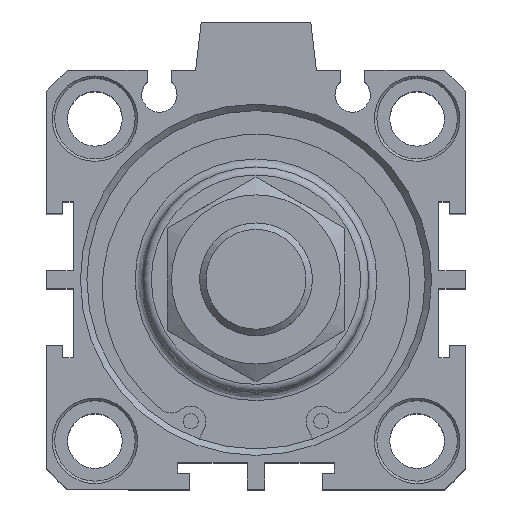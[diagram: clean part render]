
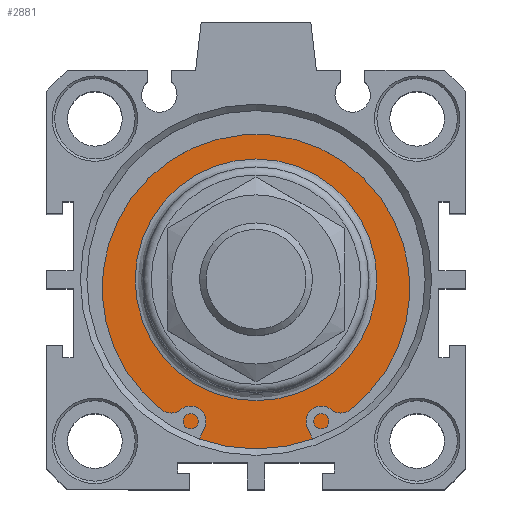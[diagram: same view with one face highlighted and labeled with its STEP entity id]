
A CAD part, top view. The second image highlights one B-rep face of the part: STEP entity #2881.
In plain terms, the highlighted planar face has unit normal (0, 0, 1).
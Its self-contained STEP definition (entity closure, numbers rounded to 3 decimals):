
#2830=CARTESIAN_POINT('',(-1.555,16.077,52.4));
#2831=VERTEX_POINT('',#2830);
#2832=CARTESIAN_POINT('',(-1.555,1.077,52.4));
#2833=DIRECTION('',(0.0,0.0,1.0));
#2834=DIRECTION('',(0.0,-1.0,0.0));
#2835=AXIS2_PLACEMENT_3D('',#2832,#2833,#2834);
#2836=CIRCLE('',#2835,15.);
#2837=EDGE_CURVE('',#2831,#2831,#2836,.T.);
#2862=CARTESIAN_POINT('',(-1.555,18.577,52.4));
#2863=DIRECTION('',(0.0,0.0,1.0));
#2864=DIRECTION('',(1.0,0.0,0.0));
#2865=AXIS2_PLACEMENT_3D('',#2862,#2863,#2864);
#2866=PLANE('',#2865);
#2867=CARTESIAN_POINT('',(-1.555,22.077,52.4));
#2868=VERTEX_POINT('',#2867);
#2869=CARTESIAN_POINT('',(-1.555,1.077,52.4));
#2870=DIRECTION('',(0.0,0.0,-1.0));
#2871=DIRECTION('',(0.0,1.0,0.0));
#2872=AXIS2_PLACEMENT_3D('',#2869,#2870,#2871);
#2873=CIRCLE('',#2872,21.);
#2874=EDGE_CURVE('',#2868,#2868,#2873,.T.);
#2875=ORIENTED_EDGE('',*,*,#2874,.F.);
#2876=EDGE_LOOP('',(#2875));
#2877=FACE_OUTER_BOUND('',#2876,.T.);
#2878=ORIENTED_EDGE('',*,*,#2837,.F.);
#2879=EDGE_LOOP('',(#2878));
#2880=FACE_BOUND('',#2879,.T.);
#2881=ADVANCED_FACE('',(#2877,#2880),#2866,.T.);
